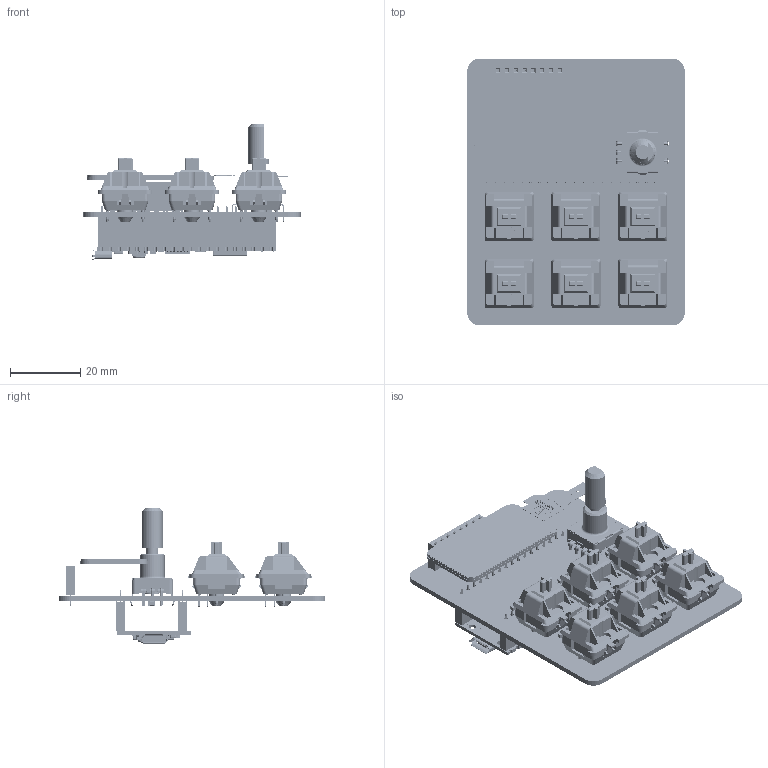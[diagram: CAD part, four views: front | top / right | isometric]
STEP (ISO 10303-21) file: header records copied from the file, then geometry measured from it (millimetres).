
FILE_DESCRIPTION(('KiCad electronic assembly'),'2;1');
FILE_NAME('PostPad.step','2026-11-13T17:41:55',('Pcbnew'),('Kicad'), 'Open CASCADE STEP processor 7.9','KiCad to STEP converter','Unknown' );
FILE_SCHEMA(('AUTOMOTIVE_DESIGN { 1 0 10303 214 1 1 1 1 }'));
Length unit declared in the file: millimetre
Products named in the file (18): PostPad 1; MX1A-E1NW--3DModel-STEP-56544; MX1A-E1NW; ec11e18244a5; 1; PinSocket_1x08_P2.54mm_Vertical; ER-TFT1.47A1-1; PinSocket_1x20_P2.54mm_Vertical; C_0805_2012Metric; Pi_Pico_2W_CAD_Reference; Pi Pico 2W CAD Reference v1; C_0603_1608Metric; Pos14B2_PCB
Assembly tree (23 placements, depth 3):
  PostPad 1
    MX1A-E1NW--3DModel-STEP-56544  x6
      MX1A-E1NW
    ec11e18244a5
      1
    PinSocket_1x08_P2.54mm_Vertical
      PinSocket_1x08_P2.54mm_Vertical
    ER-TFT1.47A1-1
      ER-TFT1.47A1-1
    PinSocket_1x20_P2.54mm_Vertical  x2
      PinSocket_1x20_P2.54mm_Vertical
    C_0805_2012Metric
      C_0805_2012Metric
    Pi_Pico_2W_CAD_Reference
      Pi Pico 2W CAD Reference v1
    C_0603_1608Metric
      C_0603_1608Metric
    Pos14B2_PCB
Bounding box: 61.9 x 76 x 38.75 mm (x, y, z)
Volume: 22023.6 mm3; surface area: 29490.5 mm2
Topology: 97 solids, 97 shells, 13047 faces, 35372 edges, 23101 vertices
Faces by surface type: plane 7075, bspline 4883, cylinder 894, torus 91, sphere 64, cone 40
Full cylindrical faces by diameter (mm): 0.2 x1, 0.31 x2, 0.4 x1, 0.5 x1, 1 x96, 1.2 x1, 1.5 x16, 1.7 x12, 2 x1, 2.1 x4, 3.5 x4, 4 x6
Entity records: 443936 total; most frequent: CARTESIAN_POINT 164803, ORIENTED_EDGE 61818, DIRECTION 35832, EDGE_CURVE 30909, VERTEX_POINT 20256, LINE 19432, VECTOR 19432, FACE_BOUND 12356
